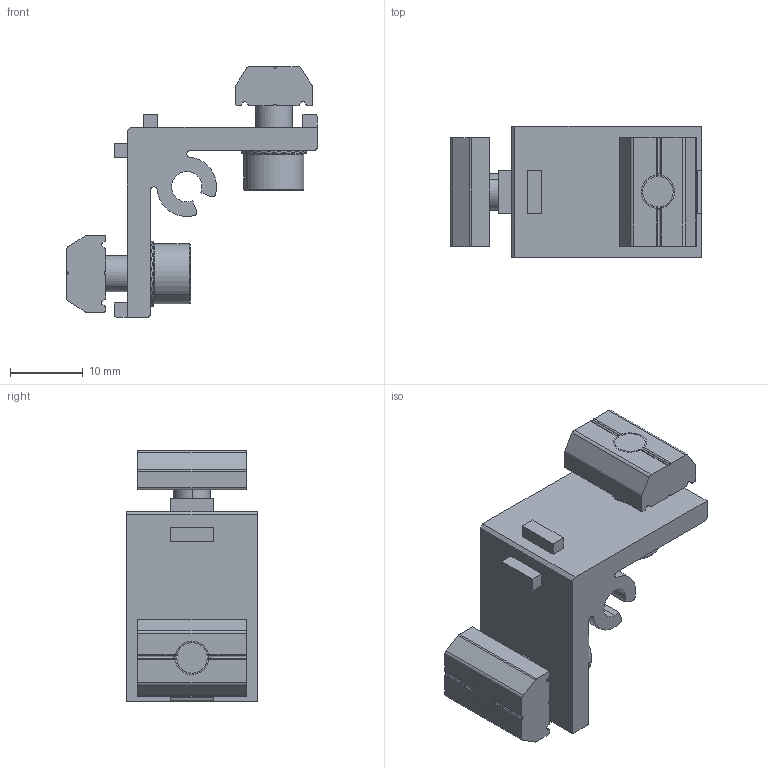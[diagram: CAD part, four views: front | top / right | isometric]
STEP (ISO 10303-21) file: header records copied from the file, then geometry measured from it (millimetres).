
FILE_DESCRIPTION (( 'STEP AP214' ), '1' );
FILE_NAME ('SMBD3-2525T.STEP', '2022-12-13T06:49:43', ( '' ), ( '' ), 'SwSTEP 2.0', 'SolidWorks 2018', '' );
FILE_SCHEMA (( 'AUTOMOTIVE_DESIGN' ));
Length unit declared in the file: millimetre
Products named in the file (5): SMBD3-2525T; PTS-M5; PTN-M5; SMBD3-2525; PTC-M5L12
Assembly tree (7 placements, depth 2):
  SMBD3-2525T
    SMBD3-2525
    PTN-M5  x2
    PTC-M5L12  x2
    PTS-M5  x2
Bounding box: 34.55 x 18 x 34.55 mm (x, y, z)
Volume: 5933.5 mm3; surface area: 5215.2 mm2
Topology: 7 solids, 7 shells, 514 faces, 1494 edges, 992 vertices
Faces by surface type: plane 417, cylinder 85, cone 12
Entity records: 9581 total; most frequent: CARTESIAN_POINT 1724, DIRECTION 1629, ORIENTED_EDGE 1626, EDGE_CURVE 813, AXIS2_PLACEMENT_3D 549, VERTEX_POINT 540, LINE 531, VECTOR 531
